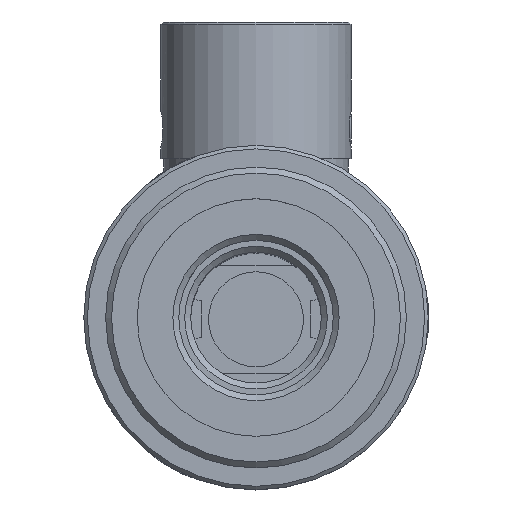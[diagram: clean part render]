
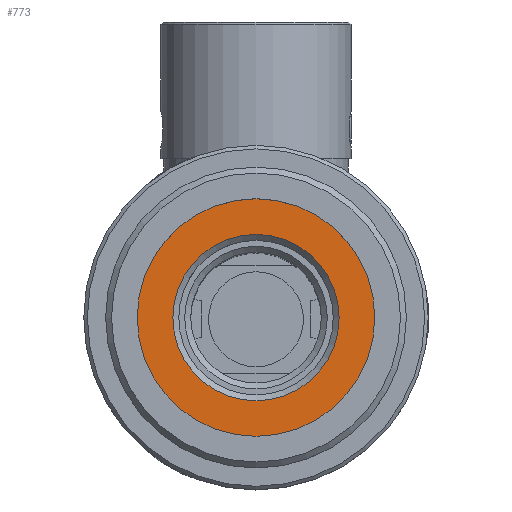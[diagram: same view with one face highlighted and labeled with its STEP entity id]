
A CAD part, top view. The second image highlights one B-rep face of the part: STEP entity #773.
In plain terms, the highlighted planar face has unit normal (0, 0, 1).
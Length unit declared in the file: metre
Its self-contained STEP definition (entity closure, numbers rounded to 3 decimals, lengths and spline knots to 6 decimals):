
#773=ADVANCED_FACE('NONE',(#1791,#1792),#1793,.F.);
#1791=FACE_BOUND('',#3065,.T.);
#1792=FACE_OUTER_BOUND('',#3066,.T.);
#1793=PLANE('',#3067);
#3065=EDGE_LOOP('',(#5290));
#3066=EDGE_LOOP('',(#5291));
#3067=AXIS2_PLACEMENT_3D('',#5292,#5293,#5294);
#5290=ORIENTED_EDGE('',*,*,#7127,.T.);
#5291=ORIENTED_EDGE('',*,*,#7128,.F.);
#5292=CARTESIAN_POINT('',(-0.013422,-0.001395,0.02407));
#5293=DIRECTION('',(0.,0.0,-1.0));
#5294=DIRECTION('',(-1.0,0.0,0.));
#7127=EDGE_CURVE('NONE',#8439,#8439,#8440,.T.);
#7128=EDGE_CURVE('NONE',#8441,#8441,#8442,.T.);
#8439=VERTEX_POINT('',#10468);
#8440=CIRCLE('',#10469,0.007);
#8441=VERTEX_POINT('',#10470);
#8442=CIRCLE('',#10471,0.01);
#10468=CARTESIAN_POINT('',(-0.003422,-0.008395,0.02407));
#10469=AXIS2_PLACEMENT_3D('',#12433,#12434,#12435);
#10470=CARTESIAN_POINT('',(-0.003422,-0.011395,0.02407));
#10471=AXIS2_PLACEMENT_3D('',#12436,#12437,#12438);
#12433=CARTESIAN_POINT('',(-0.003422,-0.001395,0.02407));
#12434=DIRECTION('',(0.,0.0,-1.0));
#12435=DIRECTION('',(0.,-1.0,0.));
#12436=CARTESIAN_POINT('',(-0.003422,-0.001395,0.02407));
#12437=DIRECTION('',(0.,0.,-1.0));
#12438=DIRECTION('',(0.,-1.0,0.));
